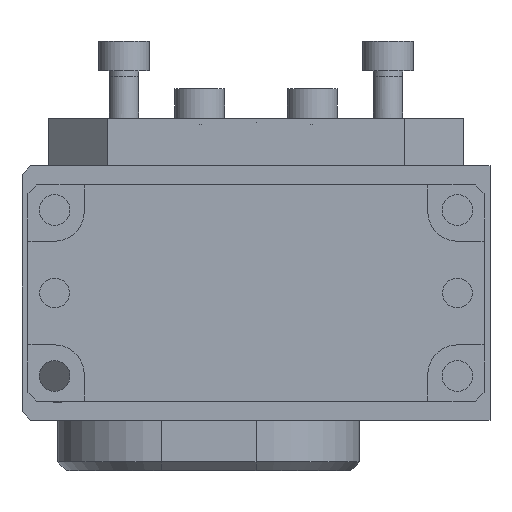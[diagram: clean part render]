
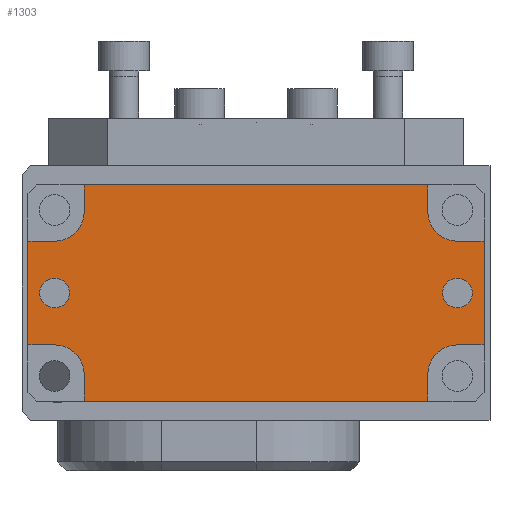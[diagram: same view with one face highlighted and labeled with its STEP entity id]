
A CAD part, left-side view. The second image highlights one B-rep face of the part: STEP entity #1303.
In plain terms, the highlighted planar face has unit normal (-1, 0, 0).
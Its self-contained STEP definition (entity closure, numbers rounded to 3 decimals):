
#1303 = ADVANCED_FACE( '', ( #2850, #2851, #2852 ), #2853, .F. );
#2850 = FACE_BOUND( '', #4501, .T. );
#2851 = FACE_BOUND( '', #4502, .T. );
#2852 = FACE_OUTER_BOUND( '', #4503, .T. );
#2853 = PLANE( '', #4504 );
#4501 = EDGE_LOOP( '', ( #7661 ) );
#4502 = EDGE_LOOP( '', ( #7662 ) );
#4503 = EDGE_LOOP( '', ( #7663, #7664, #7665, #7666, #7667, #7668, #7669, #7670, #7671, #7672, #7673, #7674, #7675, #7676, #7677, #7678 ) );
#4504 = AXIS2_PLACEMENT_3D( '', #7679, #7680, #7681 );
#7661 = ORIENTED_EDGE( '', *, *, #8940, .F. );
#7662 = ORIENTED_EDGE( '', *, *, #8542, .T. );
#7663 = ORIENTED_EDGE( '', *, *, #7960, .F. );
#7664 = ORIENTED_EDGE( '', *, *, #8302, .F. );
#7665 = ORIENTED_EDGE( '', *, *, #8403, .F. );
#7666 = ORIENTED_EDGE( '', *, *, #8927, .F. );
#7667 = ORIENTED_EDGE( '', *, *, #8395, .F. );
#7668 = ORIENTED_EDGE( '', *, *, #8918, .F. );
#7669 = ORIENTED_EDGE( '', *, *, #8925, .F. );
#7670 = ORIENTED_EDGE( '', *, *, #8407, .F. );
#7671 = ORIENTED_EDGE( '', *, *, #8812, .F. );
#7672 = ORIENTED_EDGE( '', *, *, #8581, .F. );
#7673 = ORIENTED_EDGE( '', *, *, #8714, .F. );
#7674 = ORIENTED_EDGE( '', *, *, #8517, .F. );
#7675 = ORIENTED_EDGE( '', *, *, #8233, .F. );
#7676 = ORIENTED_EDGE( '', *, *, #8652, .F. );
#7677 = ORIENTED_EDGE( '', *, *, #8267, .F. );
#7678 = ORIENTED_EDGE( '', *, *, #8847, .F. );
#7679 = CARTESIAN_POINT( '', ( -91., 38.5, 3.25 ) );
#7680 = DIRECTION( '', ( 1., 0., 0. ) );
#7681 = DIRECTION( '', ( 0., 1., 0. ) );
#7960 = EDGE_CURVE( '', #9298, #9299, #9300, .T. );
#8233 = EDGE_CURVE( '', #9756, #9757, #9758, .T. );
#8267 = EDGE_CURVE( '', #9812, #9813, #9814, .T. );
#8302 = EDGE_CURVE( '', #9870, #9298, #9871, .F. );
#8395 = EDGE_CURVE( '', #10002, #10003, #10004, .T. );
#8403 = EDGE_CURVE( '', #10014, #9870, #10015, .T. );
#8407 = EDGE_CURVE( '', #10020, #10021, #10022, .T. );
#8517 = EDGE_CURVE( '', #9757, #10179, #10180, .T. );
#8542 = EDGE_CURVE( '', #10215, #10215, #10216, .T. );
#8581 = EDGE_CURVE( '', #10270, #10271, #10272, .F. );
#8652 = EDGE_CURVE( '', #9813, #9756, #10368, .F. );
#8714 = EDGE_CURVE( '', #10179, #10270, #10444, .T. );
#8812 = EDGE_CURVE( '', #10271, #10020, #10559, .T. );
#8847 = EDGE_CURVE( '', #9299, #9812, #10603, .T. );
#8918 = EDGE_CURVE( '', #10689, #10002, #10690, .F. );
#8925 = EDGE_CURVE( '', #10021, #10689, #10698, .T. );
#8927 = EDGE_CURVE( '', #10003, #10014, #10700, .T. );
#8940 = EDGE_CURVE( '', #10714, #10714, #10715, .T. );
#9298 = VERTEX_POINT( '', #11206 );
#9299 = VERTEX_POINT( '', #11207 );
#9300 = LINE( '', #11208, #11209 );
#9756 = VERTEX_POINT( '', #12041 );
#9757 = VERTEX_POINT( '', #12042 );
#9758 = LINE( '', #12043, #12044 );
#9812 = VERTEX_POINT( '', #12116 );
#9813 = VERTEX_POINT( '', #12117 );
#9814 = LINE( '', #12118, #12119 );
#9870 = VERTEX_POINT( '', #12252 );
#9871 = CIRCLE( '', #12253, 5. );
#10002 = VERTEX_POINT( '', #12441 );
#10003 = VERTEX_POINT( '', #12442 );
#10004 = LINE( '', #12443, #12444 );
#10014 = VERTEX_POINT( '', #12459 );
#10015 = LINE( '', #12460, #12461 );
#10020 = VERTEX_POINT( '', #12468 );
#10021 = VERTEX_POINT( '', #12469 );
#10022 = LINE( '', #12470, #12471 );
#10179 = VERTEX_POINT( '', #12710 );
#10180 = LINE( '', #12711, #12712 );
#10215 = VERTEX_POINT( '', #12792 );
#10216 = CIRCLE( '', #12793, 2.51 );
#10270 = VERTEX_POINT( '', #12856 );
#10271 = VERTEX_POINT( '', #12857 );
#10272 = CIRCLE( '', #12858, 5. );
#10368 = CIRCLE( '', #13011, 5. );
#10444 = LINE( '', #13109, #13110 );
#10559 = LINE( '', #13286, #13287 );
#10603 = LINE( '', #13338, #13339 );
#10689 = VERTEX_POINT( '', #13443 );
#10690 = CIRCLE( '', #13444, 5. );
#10698 = LINE( '', #13454, #13455 );
#10700 = LINE( '', #13457, #13458 );
#10714 = VERTEX_POINT( '', #13472 );
#10715 = CIRCLE( '', #13473, 2.51 );
#11206 = CARTESIAN_POINT( '', ( -91., -29., 7.75 ) );
#11207 = CARTESIAN_POINT( '', ( -91., -29., 3.25 ) );
#11208 = CARTESIAN_POINT( '', ( -91., -29., 3.25 ) );
#11209 = VECTOR( '', #13751, 1000. );
#12041 = CARTESIAN_POINT( '', ( -91., 34., 12.75 ) );
#12042 = CARTESIAN_POINT( '', ( -91., 38.5, 12.75 ) );
#12043 = CARTESIAN_POINT( '', ( -91., 38.5, 12.75 ) );
#12044 = VECTOR( '', #14137, 1000. );
#12116 = CARTESIAN_POINT( '', ( -91., 29., 3.25 ) );
#12117 = CARTESIAN_POINT( '', ( -91., 29., 7.75 ) );
#12118 = CARTESIAN_POINT( '', ( -91., 29., 3.25 ) );
#12119 = VECTOR( '', #14174, 1000. );
#12252 = CARTESIAN_POINT( '', ( -91., -34., 12.75 ) );
#12253 = AXIS2_PLACEMENT_3D( '', #14228, #14229, #14230 );
#12441 = CARTESIAN_POINT( '', ( -91., -34., 30.25 ) );
#12442 = CARTESIAN_POINT( '', ( -91., -38.5, 30.25 ) );
#12443 = CARTESIAN_POINT( '', ( -91., 38.5, 30.25 ) );
#12444 = VECTOR( '', #14339, 1000. );
#12459 = CARTESIAN_POINT( '', ( -91., -38.5, 12.75 ) );
#12460 = CARTESIAN_POINT( '', ( -91., 38.5, 12.75 ) );
#12461 = VECTOR( '', #14345, 1000. );
#12468 = CARTESIAN_POINT( '', ( -91., 29., 39.75 ) );
#12469 = CARTESIAN_POINT( '', ( -91., -29., 39.75 ) );
#12470 = CARTESIAN_POINT( '', ( -91., 38.5, 39.75 ) );
#12471 = VECTOR( '', #14348, 1000. );
#12710 = CARTESIAN_POINT( '', ( -91., 38.5, 30.25 ) );
#12711 = CARTESIAN_POINT( '', ( -91., 38.5, 3.25 ) );
#12712 = VECTOR( '', #14470, 1000. );
#12792 = CARTESIAN_POINT( '', ( -91., 36.51, 21.5 ) );
#12793 = AXIS2_PLACEMENT_3D( '', #14489, #14490, #14491 );
#12856 = CARTESIAN_POINT( '', ( -91., 34., 30.25 ) );
#12857 = CARTESIAN_POINT( '', ( -91., 29., 35.25 ) );
#12858 = AXIS2_PLACEMENT_3D( '', #14543, #14544, #14545 );
#13011 = AXIS2_PLACEMENT_3D( '', #14615, #14616, #14617 );
#13109 = CARTESIAN_POINT( '', ( -91., 38.5, 30.25 ) );
#13110 = VECTOR( '', #14673, 1000. );
#13286 = CARTESIAN_POINT( '', ( -91., 29., 3.25 ) );
#13287 = VECTOR( '', #14747, 1000. );
#13338 = CARTESIAN_POINT( '', ( -91., -38.5, 3.25 ) );
#13339 = VECTOR( '', #14779, 1000. );
#13443 = CARTESIAN_POINT( '', ( -91., -29., 35.25 ) );
#13444 = AXIS2_PLACEMENT_3D( '', #14825, #14826, #14827 );
#13454 = CARTESIAN_POINT( '', ( -91., -29., 3.25 ) );
#13455 = VECTOR( '', #14833, 1000. );
#13457 = CARTESIAN_POINT( '', ( -91., -38.5, 39.75 ) );
#13458 = VECTOR( '', #14834, 1000. );
#13472 = CARTESIAN_POINT( '', ( -91., -36.51, 21.5 ) );
#13473 = AXIS2_PLACEMENT_3D( '', #14838, #14839, #14840 );
#13751 = DIRECTION( '', ( 0., 0., -1. ) );
#14137 = DIRECTION( '', ( 0., 1., 0. ) );
#14174 = DIRECTION( '', ( 0., 0., 1. ) );
#14228 = CARTESIAN_POINT( '', ( -91., -34., 7.75 ) );
#14229 = DIRECTION( '', ( 1., 0., 0. ) );
#14230 = DIRECTION( '', ( 0., 0., -1. ) );
#14339 = DIRECTION( '', ( 0., -1., 0. ) );
#14345 = DIRECTION( '', ( 0., 1., 0. ) );
#14348 = DIRECTION( '', ( 0., -1., 0. ) );
#14470 = DIRECTION( '', ( 0., 0., 1. ) );
#14489 = CARTESIAN_POINT( '', ( -91., 34., 21.5 ) );
#14490 = DIRECTION( '', ( 1., 0., 0. ) );
#14491 = DIRECTION( '', ( 0., 1., 0. ) );
#14543 = CARTESIAN_POINT( '', ( -91., 34., 35.25 ) );
#14544 = DIRECTION( '', ( 1., 0., 0. ) );
#14545 = DIRECTION( '', ( 0., 0., -1. ) );
#14615 = CARTESIAN_POINT( '', ( -91., 34., 7.75 ) );
#14616 = DIRECTION( '', ( 1., 0., 0. ) );
#14617 = DIRECTION( '', ( 0., 0., -1. ) );
#14673 = DIRECTION( '', ( 0., -1., 0. ) );
#14747 = DIRECTION( '', ( 0., 0., 1. ) );
#14779 = DIRECTION( '', ( 0., 1., 0. ) );
#14825 = CARTESIAN_POINT( '', ( -91., -34., 35.25 ) );
#14826 = DIRECTION( '', ( 1., 0., 0. ) );
#14827 = DIRECTION( '', ( 0., 0., -1. ) );
#14833 = DIRECTION( '', ( 0., 0., -1. ) );
#14834 = DIRECTION( '', ( 0., 0., -1. ) );
#14838 = CARTESIAN_POINT( '', ( -91., -34., 21.5 ) );
#14839 = DIRECTION( '', ( -1., 0., 0. ) );
#14840 = DIRECTION( '', ( 0., -1., 0. ) );
